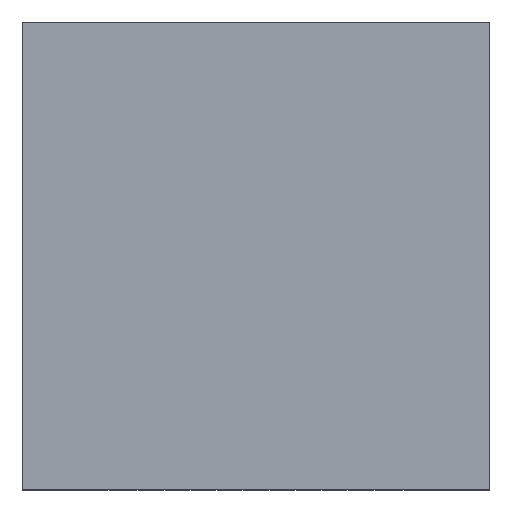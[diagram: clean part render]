
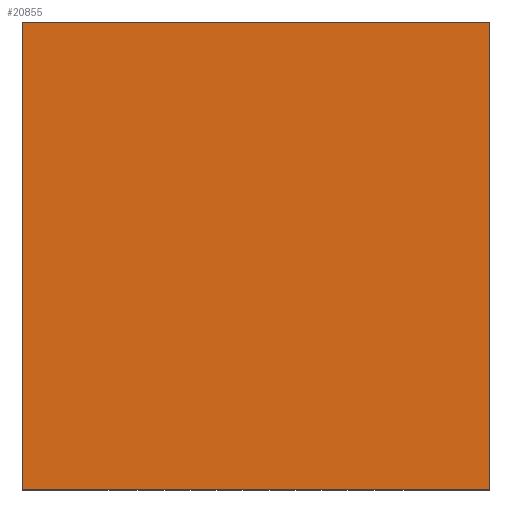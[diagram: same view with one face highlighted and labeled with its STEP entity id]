
A CAD part, top view. The second image highlights one B-rep face of the part: STEP entity #20855.
In plain terms, the highlighted planar face has unit normal (0, 0, 1).
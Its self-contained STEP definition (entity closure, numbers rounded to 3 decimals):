
#121 = VECTOR ( 'NONE', #21628, 1000. ) ;
#920 = ORIENTED_EDGE ( 'NONE', *, *, #10071, .T. ) ;
#986 = LINE ( 'NONE', #8868, #121 ) ;
#995 = CARTESIAN_POINT ( 'NONE',  ( 2.25, 2.25, 1.1 ) ) ;
#2633 = EDGE_CURVE ( 'NONE', #19201, #18899, #10623, .T. ) ;
#2733 = DIRECTION ( 'NONE',  ( 0., 0., 1. ) ) ;
#5651 = EDGE_LOOP ( 'NONE', ( #920, #19790, #15769, #16898 ) ) ;
#6085 = VERTEX_POINT ( 'NONE', #995 ) ;
#6826 = CARTESIAN_POINT ( 'NONE',  ( -2.25, 2.25, 1.1 ) ) ;
#7412 = VECTOR ( 'NONE', #23875, 1000. ) ;
#8132 = CARTESIAN_POINT ( 'NONE',  ( -2.25, 2.25, 1.1 ) ) ;
#8182 = CARTESIAN_POINT ( 'NONE',  ( 0., 0., 1.1 ) ) ;
#8868 = CARTESIAN_POINT ( 'NONE',  ( -2.25, -2.25, 1.1 ) ) ;
#8892 = LINE ( 'NONE', #6826, #7412 ) ;
#9314 = FACE_OUTER_BOUND ( 'NONE', #5651, .T. ) ;
#9982 = LINE ( 'NONE', #19224, #19337 ) ;
#10071 = EDGE_CURVE ( 'NONE', #15973, #6085, #9982, .T. ) ;
#10623 = LINE ( 'NONE', #23816, #15899 ) ;
#12901 = EDGE_CURVE ( 'NONE', #6085, #19201, #8892, .T. ) ;
#12959 = DIRECTION ( 'NONE',  ( 0., -1., 0. ) ) ;
#14445 = EDGE_CURVE ( 'NONE', #18899, #15973, #986, .T. ) ;
#14673 = CARTESIAN_POINT ( 'NONE',  ( -2.25, -2.25, 1.1 ) ) ;
#15769 = ORIENTED_EDGE ( 'NONE', *, *, #2633, .T. ) ;
#15899 = VECTOR ( 'NONE', #12959, 1000. ) ;
#15917 = DIRECTION ( 'NONE',  ( 1., 0., 0. ) ) ;
#15973 = VERTEX_POINT ( 'NONE', #20498 ) ;
#16898 = ORIENTED_EDGE ( 'NONE', *, *, #14445, .T. ) ;
#17311 = AXIS2_PLACEMENT_3D ( 'NONE', #8182, #2733, #15917 ) ;
#18899 = VERTEX_POINT ( 'NONE', #14673 ) ;
#19201 = VERTEX_POINT ( 'NONE', #8132 ) ;
#19224 = CARTESIAN_POINT ( 'NONE',  ( 2.25, 2.25, 1.1 ) ) ;
#19337 = VECTOR ( 'NONE', #22987, 1000. ) ;
#19790 = ORIENTED_EDGE ( 'NONE', *, *, #12901, .T. ) ;
#20498 = CARTESIAN_POINT ( 'NONE',  ( 2.25, -2.25, 1.1 ) ) ;
#20855 = ADVANCED_FACE ( 'NONE', ( #9314 ), #23313, .T. ) ;
#21628 = DIRECTION ( 'NONE',  ( 1., 0., 0. ) ) ;
#22987 = DIRECTION ( 'NONE',  ( 0., 1., 0. ) ) ;
#23313 = PLANE ( 'NONE',  #17311 ) ;
#23816 = CARTESIAN_POINT ( 'NONE',  ( -2.25, 2.25, 1.1 ) ) ;
#23875 = DIRECTION ( 'NONE',  ( -1., 0., 0. ) ) ;
